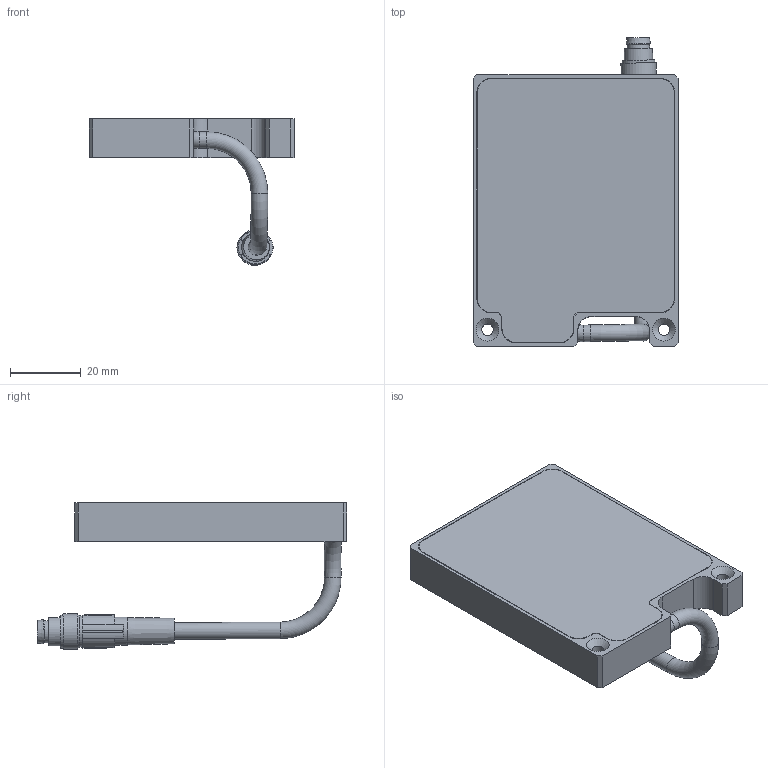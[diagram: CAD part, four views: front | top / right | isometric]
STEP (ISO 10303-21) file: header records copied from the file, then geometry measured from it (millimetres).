
FILE_DESCRIPTION(/* description */ ('Unknown','CAx-IF Rec.Pracs.---Representation and Presentation of Product Manufacturing Information (PMI)---4.0---2014-10-13','CAx-IF Rec.Pracs.---3D Tessellated Geometry---0.4---2014-09-14','2;1'),/* implementation_level */ '2;1');
FILE_NAME(/* name */ 'BF50x50',/* time_stamp */ '2021-01-19T11:55:05+01:00',/* author */ ('AW'),/* organization */ ('iiM AG'),/* preprocessor_version */ 'ST-DEVELOPER v16.7',/* originating_system */ 'DEX',/* authorisation */ $);
FILE_SCHEMA (('AP242_MANAGED_MODEL_BASED_3D_ENGINEERING_MIM_LF { 1 0 10303 442 1 1 4 }'));
Length unit declared in the file: millimetre
Products named in the file (1): BF50x50
Bounding box: 58.15 x 87.58 x 41.53 mm (x, y, z)
Volume: 28363.1 mm3; surface area: 26193.5 mm2
Topology: 2 solids, 2 shells, 369 faces, 948 edges, 628 vertices
Faces by surface type: plane 255, cylinder 80, bspline 26, cone 5, torus 3
Full cylindrical faces by diameter (mm): 1 x4, 2 x4, 3.242 x2, 4.7 x2, 5.7 x1, 6.35 x1, 8 x2, 9 x1, 9.3 x2, 10 x1
Entity records: 15241 total; most frequent: CARTESIAN_POINT 4076, ORIENTED_EDGE 1816, DIRECTION 1680, EDGE_CURVE 908, LINE 660, VECTOR 660, VERTEX_POINT 619, AXIS2_PLACEMENT_3D 510
